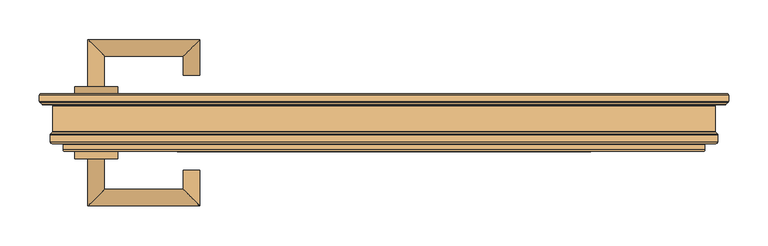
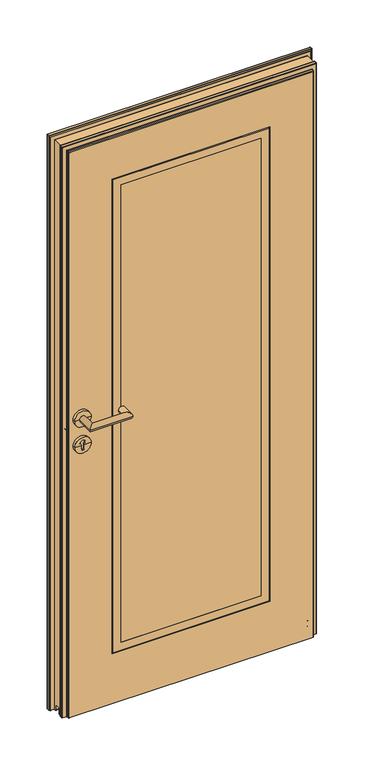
"""IFC4 building model written with IfcOpenShell, lengths in millimetres: door geometry, Peneder_HIGHLINEflat zero_1-flügelig_V2019 : Zargentyp - 05 - U DN."""

from ifc_helpers import new_model, si_unit, frame, origin, place, context, project, spatial, polyline, circle_curve, ellipse_curve, outline, extrude, faceted_brep, source, transform, mapped, element, save
from ifc_brep_helpers import plane_surface, cylinder_surface, revolved_surface, advanced_brep


def door_f72b39be(model_context):
    return source(origin(), model_context, "Body", "SolidModel", [
        advanced_brep(
        [(-375.5, 56.0, 1050.0), (-354.5, 56.0, 1050.0), (-375.5, -4.0, 1050.0), (-354.5, 17.0, 1050.0), (-233.5, -4.0, 1050.0), (-254.5, 17.0, 1050.0), (-233.5, 41.0, 1050.0), (-254.5, 41.0, 1050.0)],
        [
            (0, 1, circle_curve(frame((-365.0, 56.0, 1050.0), z_axis=(0.0, 1.0, 0.0), x_axis=(1.0, 0.0, 0.0)), 10.5)),
            (1, 0, circle_curve(frame((-365.0, 56.0, 1050.0), z_axis=(0.0, 1.0, 0.0), x_axis=(1.0, 0.0, 0.0)), 10.5)),
            (0, 2),
            (2, 3, ellipse_curve(frame((-365.0, 6.5, 1050.0), z_axis=(-0.7071067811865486, 0.7071067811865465, 0.0), x_axis=(0.7071067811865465, 0.7071067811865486, 0.0)), 14.8492424, 10.5)),
            (3, 1),
            (3, 2, ellipse_curve(frame((-365.0, 6.5, 1050.0), z_axis=(-0.7071067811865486, 0.7071067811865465, 0.0), x_axis=(0.7071067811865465, 0.7071067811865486, 0.0)), 14.8492424, 10.5)),
            (2, 4),
            (4, 5, ellipse_curve(frame((-244.0, 6.5, 1050.0), z_axis=(-0.7071067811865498, -0.7071067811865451, 0.0), x_axis=(-0.7071067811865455, 0.7071067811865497, 0.0)), 14.8492424, 10.5)),
            (5, 3),
            (5, 4, ellipse_curve(frame((-244.0, 6.5, 1050.0), z_axis=(-0.7071067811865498, -0.7071067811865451, 0.0), x_axis=(-0.7071067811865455, 0.7071067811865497, 0.0)), 14.8492424, 10.5)),
            (6, 7, circle_curve(frame((-244.0, 41.0, 1050.0), z_axis=(0.0, 1.0, 0.0), x_axis=(-1.0, 0.0, 0.0)), 10.5)),
            (7, 6, circle_curve(frame((-244.0, 41.0, 1050.0), z_axis=(0.0, 1.0, 0.0), x_axis=(-1.0, 0.0, 0.0)), 10.5)),
            (4, 6),
            (7, 5),
        ],
        [
            plane_surface(frame((-365.0, 56.0, 1050.0), z_axis=(0.0, 1.0, 0.0), x_axis=(0.0, 0.0, 1.0))),
            cylinder_surface(frame((-365.0, 56.0, 1050.0), z_axis=(0.0, 1.0, 0.0), x_axis=(1.0, 0.0, 0.0)), 10.5),
            cylinder_surface(frame((-365.0, 6.5, 1050.0), z_axis=(-1.0, 0.0, 0.0), x_axis=(0.0, 1.0, 0.0)), 10.5),
            plane_surface(frame((-244.0, 41.0, 1050.0), z_axis=(0.0, 1.0, 0.0), x_axis=(0.0, 0.0, 1.0))),
            cylinder_surface(frame((-244.0, 6.5, 1050.0), z_axis=(0.0, -1.0, 0.0), x_axis=(-1.0, 0.0, 0.0)), 10.5),
        ],
        [
            (0, [[1, 2]]),
            (1, [[-1, 3, 4, 5]]),
            (1, [[-2, -5, 6, -3]]),
            (2, [[-4, 7, 8, 9]]),
            (2, [[-6, -9, 10, -7]]),
            (3, [[11, 12]]),
            (4, [[-8, 13, -12, 14]]),
            (4, [[-10, -14, -11, -13]]),
        ],
    ),
        advanced_brep(
        [(-337.5, 56.0, 1050.0), (-392.5, 56.0, 1050.0), (-392.5, 65.0, 1050.0), (-337.5, 65.0, 1050.0), (-365.0, 56.0, 1050.0), (-365.0, 65.0, 1050.0)],
        [
            (0, 1, circle_curve(frame((-365.0, 56.0, 1050.0), z_axis=(0.0, 1.0, 0.0), x_axis=(-1.0, 0.0, 0.0)), 27.5)),
            (1, 2),
            (2, 3, circle_curve(frame((-365.0, 65.0, 1050.0), z_axis=(0.0, -1.0, 0.0), x_axis=(-1.0, 0.0, 0.0)), 27.5)),
            (3, 0),
            (1, 0, circle_curve(frame((-365.0, 56.0, 1050.0), z_axis=(0.0, 1.0, 0.0), x_axis=(-1.0, 0.0, 0.0)), 27.5)),
            (3, 2, circle_curve(frame((-365.0, 65.0, 1050.0), z_axis=(0.0, -1.0, 0.0), x_axis=(-1.0, 0.0, 0.0)), 27.5)),
            (4, 1),
            (0, 4),
            (2, 5),
            (5, 3),
        ],
        [
            cylinder_surface(frame((-365.0, 82.7607135, 1050.0), z_axis=(0.0, -1.0, 0.0), x_axis=(-1.0, 0.0, 0.0)), 27.5),
            plane_surface(frame((-365.0, 56.0, 1050.0), z_axis=(0.0, -1.0, 0.0), x_axis=(-1.0, 0.0, 0.0))),
            plane_surface(frame((-365.0, 65.0, 1050.0), z_axis=(0.0, 1.0, 0.0), x_axis=(-1.0, 0.0, 0.0))),
        ],
        [
            (0, [[1, 2, 3, 4]]),
            (0, [[5, -4, 6, -2]]),
            (1, [[7, -1, 8]]),
            (1, [[-8, -5, -7]]),
            (2, [[-3, 9, 10]]),
            (2, [[-6, -10, -9]]),
        ],
    ),
        advanced_brep(
        [(-337.5, 56.0, 958.0), (-392.5, 56.0, 958.0), (-392.5, 65.0, 958.0), (-337.5, 65.0, 958.0), (-360.0, 56.0, 958.0), (-360.0, 56.0, 945.8645067), (-370.0, 56.0, 945.8645067), (-370.0, 56.0, 958.0), (-370.0, 56.0, 960.8645067), (-360.0, 56.0, 960.8645067), (-365.0, 65.0, 958.0), (-370.0, 62.0, 945.8645067), (-360.0, 62.0, 945.8645067), (-360.0, 62.0, 960.8645067), (-370.0, 62.0, 960.8645067)],
        [
            (0, 1, circle_curve(frame((-365.0, 56.0, 958.0), z_axis=(0.0, 1.0, 0.0), x_axis=(-1.0, 0.0, 0.0)), 27.5)),
            (1, 2),
            (2, 3, circle_curve(frame((-365.0, 65.0, 958.0), z_axis=(0.0, -1.0, 0.0), x_axis=(-1.0, 0.0, 0.0)), 27.5)),
            (3, 0),
            (1, 0, circle_curve(frame((-365.0, 56.0, 958.0), z_axis=(0.0, 1.0, 0.0), x_axis=(-1.0, 0.0, 0.0)), 27.5)),
            (3, 2, circle_curve(frame((-365.0, 65.0, 958.0), z_axis=(0.0, -1.0, 0.0), x_axis=(-1.0, 0.0, 0.0)), 27.5)),
            (0, 4),
            (4, 5),
            (5, 6, circle_curve(frame((-365.0, 56.0, 945.8645067), z_axis=(0.0, 1.0, 0.0), x_axis=(-1.0, 0.0, 0.0)), 5.0)),
            (6, 7),
            (7, 1),
            (7, 8),
            (8, 9, circle_curve(frame((-365.0, 56.0, 967.690169), z_axis=(0.0, 1.0, 0.0), x_axis=(-1.0, 0.0, 0.0)), 8.4610677)),
            (9, 4),
            (2, 10),
            (10, 3),
            (11, 12, circle_curve(frame((-365.0, 62.0, 945.8645067), z_axis=(0.0, -1.0, 0.0), x_axis=(-1.0, 0.0, 0.0)), 5.0)),
            (12, 13),
            (13, 14, circle_curve(frame((-365.0, 62.0, 967.690169), z_axis=(0.0, -1.0, 0.0), x_axis=(-1.0, 0.0, 0.0)), 8.4610677)),
            (14, 11),
            (11, 6),
            (5, 12),
            (9, 13),
            (8, 14),
        ],
        [
            cylinder_surface(frame((-365.0, 72.1832023, 958.0), z_axis=(0.0, -1.0, 0.0), x_axis=(-1.0, 0.0, 0.0)), 27.5),
            plane_surface(frame((-365.0, 56.0, 958.0), z_axis=(0.0, -1.0, 0.0), x_axis=(-1.0, 0.0, 0.0))),
            plane_surface(frame((-365.0, 65.0, 958.0), z_axis=(0.0, 1.0, 0.0), x_axis=(-1.0, 0.0, 0.0))),
            plane_surface(frame((-370.0, 62.0, 960.8645067), z_axis=(0.0, -1.0, 0.0), x_axis=(0.0, 0.0, 1.0))),
            revolved_surface(polyline([(-370.0, 62.0, 945.8645067), (-370.0, 56.0, 945.8645067)]), (-365.0, 52.0, 945.8645067), (0.0, 1.0, 0.0)),
            plane_surface(frame((-360.0, 62.0, 960.8645067), z_axis=(-1.0, 0.0, 0.0), x_axis=(0.0, -1.0, 0.0))),
            revolved_surface(polyline([(-373.4610677, 62.0, 967.690169), (-373.4610677, 56.0, 967.690169)]), (-365.0, 52.0, 967.690169), (0.0, 1.0, 0.0)),
            plane_surface(frame((-370.0, 62.0, 945.8645067), z_axis=(1.0, 0.0, 0.0), x_axis=(0.0, -1.0, 0.0))),
        ],
        [
            (0, [[1, 2, 3, 4]]),
            (0, [[-2, 5, -4, 6]]),
            (1, [[-1, 7, 8, 9, 10, 11]]),
            (1, [[-5, -11, 12, 13, 14, -7]]),
            (2, [[-3, 15, 16]]),
            (2, [[-6, -16, -15]]),
            (3, [[17, 18, 19, 20]]),
            (4, [[-17, 21, -9, 22]]),
            (5, [[-18, -22, -8, -14, 23]]),
            (6, [[-19, -23, -13, 24]]),
            (7, [[-20, -24, -12, -10, -21]]),
        ],
    ),
        advanced_brep(
        [(-375.5, 147.0, 1050.0), (-354.5, 147.0, 1050.0), (-354.5, 186.0, 1050.0), (-375.5, 207.0, 1050.0), (-254.5, 186.0, 1050.0), (-233.5, 207.0, 1050.0), (-233.5, 162.0, 1050.0), (-254.5, 162.0, 1050.0)],
        [
            (0, 1, circle_curve(frame((-365.0, 147.0, 1050.0), z_axis=(0.0, -1.0, 0.0), x_axis=(1.0, 0.0, 0.0)), 10.5)),
            (1, 0, circle_curve(frame((-365.0, 147.0, 1050.0), z_axis=(0.0, -1.0, 0.0), x_axis=(1.0, 0.0, 0.0)), 10.5)),
            (1, 2),
            (2, 3, ellipse_curve(frame((-365.0, 196.5, 1050.0), z_axis=(-0.7071067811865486, -0.7071067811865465, 0.0), x_axis=(0.7071067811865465, -0.7071067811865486, 0.0)), 14.8492424, 10.5)),
            (3, 0),
            (3, 2, ellipse_curve(frame((-365.0, 196.5, 1050.0), z_axis=(-0.7071067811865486, -0.7071067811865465, 0.0), x_axis=(0.7071067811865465, -0.7071067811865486, 0.0)), 14.8492424, 10.5)),
            (2, 4),
            (4, 5, ellipse_curve(frame((-244.0, 196.5, 1050.0), z_axis=(-0.7071067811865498, 0.7071067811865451, 0.0), x_axis=(-0.7071067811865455, -0.7071067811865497, 0.0)), 14.8492424, 10.5)),
            (5, 3),
            (5, 4, ellipse_curve(frame((-244.0, 196.5, 1050.0), z_axis=(-0.7071067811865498, 0.7071067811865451, 0.0), x_axis=(-0.7071067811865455, -0.7071067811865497, 0.0)), 14.8492424, 10.5)),
            (6, 7, circle_curve(frame((-244.0, 162.0, 1050.0), z_axis=(0.0, -1.0, 0.0), x_axis=(-1.0, 0.0, 0.0)), 10.5)),
            (7, 6, circle_curve(frame((-244.0, 162.0, 1050.0), z_axis=(0.0, -1.0, 0.0), x_axis=(-1.0, 0.0, 0.0)), 10.5)),
            (4, 7),
            (6, 5),
        ],
        [
            plane_surface(frame((-365.0, 147.0, 1050.0), z_axis=(0.0, -1.0, 0.0), x_axis=(0.0, 0.0, 1.0))),
            cylinder_surface(frame((-365.0, 147.0, 1050.0), z_axis=(0.0, -1.0, 0.0), x_axis=(1.0, 0.0, 0.0)), 10.5),
            cylinder_surface(frame((-365.0, 196.5, 1050.0), z_axis=(-1.0, 0.0, 0.0), x_axis=(0.0, -1.0, 0.0)), 10.5),
            plane_surface(frame((-244.0, 162.0, 1050.0), z_axis=(0.0, -1.0, 0.0), x_axis=(0.0, 0.0, 1.0))),
            cylinder_surface(frame((-244.0, 196.5, 1050.0), z_axis=(0.0, 1.0, 0.0), x_axis=(-1.0, 0.0, 0.0)), 10.5),
        ],
        [
            (0, [[1, 2]]),
            (1, [[3, 4, 5, -2]]),
            (1, [[-5, 6, -3, -1]]),
            (2, [[7, 8, 9, -4]]),
            (2, [[-9, 10, -7, -6]]),
            (3, [[11, 12]]),
            (4, [[13, -11, 14, -8]]),
            (4, [[-14, -12, -13, -10]]),
        ],
    ),
        advanced_brep(
        [(-337.5, 147.0, 1050.0), (-337.5, 138.0, 1050.0), (-392.5, 138.0, 1050.0), (-392.5, 147.0, 1050.0), (-365.0, 147.0, 1050.0), (-365.0, 138.0, 1050.0)],
        [
            (0, 1),
            (1, 2, circle_curve(frame((-365.0, 138.0, 1050.0), z_axis=(0.0, 1.0, 0.0), x_axis=(-1.0, 0.0, 0.0)), 27.5)),
            (2, 3),
            (3, 0, circle_curve(frame((-365.0, 147.0, 1050.0), z_axis=(0.0, -1.0, 0.0), x_axis=(-1.0, 0.0, 0.0)), 27.5)),
            (2, 1, circle_curve(frame((-365.0, 138.0, 1050.0), z_axis=(0.0, 1.0, 0.0), x_axis=(-1.0, 0.0, 0.0)), 27.5)),
            (0, 3, circle_curve(frame((-365.0, 147.0, 1050.0), z_axis=(0.0, -1.0, 0.0), x_axis=(-1.0, 0.0, 0.0)), 27.5)),
            (4, 0),
            (3, 4),
            (1, 5),
            (5, 2),
        ],
        [
            cylinder_surface(frame((-365.0, 120.2392865, 1050.0), z_axis=(0.0, 1.0, 0.0), x_axis=(-1.0, 0.0, 0.0)), 27.5),
            plane_surface(frame((-365.0, 147.0, 1050.0), z_axis=(0.0, 1.0, 0.0), x_axis=(-1.0, 0.0, 0.0))),
            plane_surface(frame((-365.0, 138.0, 1050.0), z_axis=(0.0, -1.0, 0.0), x_axis=(-1.0, 0.0, 0.0))),
        ],
        [
            (0, [[1, 2, 3, 4]]),
            (0, [[-3, 5, -1, 6]]),
            (1, [[7, -4, 8]]),
            (1, [[-8, -6, -7]]),
            (2, [[9, 10, -2]]),
            (2, [[-10, -9, -5]]),
        ],
    ),
        advanced_brep(
        [(-337.5, 147.0, 958.0), (-337.5, 138.0, 958.0), (-392.5, 138.0, 958.0), (-392.5, 147.0, 958.0), (-370.0, 147.0, 958.0), (-370.0, 147.0, 945.8645067), (-360.0, 147.0, 945.8645067), (-360.0, 147.0, 958.0), (-360.0, 147.0, 960.8645067), (-370.0, 147.0, 960.8645067), (-365.0, 138.0, 958.0), (-370.0, 141.0, 945.8645067), (-370.0, 141.0, 960.8645067), (-360.0, 141.0, 960.8645067), (-360.0, 141.0, 945.8645067)],
        [
            (0, 1),
            (1, 2, circle_curve(frame((-365.0, 138.0, 958.0), z_axis=(0.0, 1.0, 0.0), x_axis=(-1.0, 0.0, 0.0)), 27.5)),
            (2, 3),
            (3, 0, circle_curve(frame((-365.0, 147.0, 958.0), z_axis=(0.0, -1.0, 0.0), x_axis=(-1.0, 0.0, 0.0)), 27.5)),
            (2, 1, circle_curve(frame((-365.0, 138.0, 958.0), z_axis=(0.0, 1.0, 0.0), x_axis=(-1.0, 0.0, 0.0)), 27.5)),
            (0, 3, circle_curve(frame((-365.0, 147.0, 958.0), z_axis=(0.0, -1.0, 0.0), x_axis=(-1.0, 0.0, 0.0)), 27.5)),
            (3, 4),
            (4, 5),
            (5, 6, circle_curve(frame((-365.0, 147.0, 945.8645067), z_axis=(0.0, -1.0, 0.0), x_axis=(-1.0, 0.0, 0.0)), 5.0)),
            (6, 7),
            (7, 0),
            (7, 8),
            (8, 9, circle_curve(frame((-365.0, 147.0, 967.690169), z_axis=(0.0, -1.0, 0.0), x_axis=(-1.0, 0.0, 0.0)), 8.4610677)),
            (9, 4),
            (1, 10),
            (10, 2),
            (11, 12),
            (12, 13, circle_curve(frame((-365.0, 141.0, 967.690169), z_axis=(0.0, 1.0, 0.0), x_axis=(-1.0, 0.0, 0.0)), 8.4610677)),
            (13, 14),
            (14, 11, circle_curve(frame((-365.0, 141.0, 945.8645067), z_axis=(0.0, 1.0, 0.0), x_axis=(-1.0, 0.0, 0.0)), 5.0)),
            (14, 6),
            (5, 11),
            (13, 8),
            (12, 9),
        ],
        [
            cylinder_surface(frame((-365.0, 130.8167977, 958.0), z_axis=(0.0, 1.0, 0.0), x_axis=(-1.0, 0.0, 0.0)), 27.5),
            plane_surface(frame((-365.0, 147.0, 958.0), z_axis=(0.0, 1.0, 0.0), x_axis=(-1.0, 0.0, 0.0))),
            plane_surface(frame((-365.0, 138.0, 958.0), z_axis=(0.0, -1.0, 0.0), x_axis=(-1.0, 0.0, 0.0))),
            plane_surface(frame((-370.0, 141.0, 960.8645067), z_axis=(0.0, 1.0, 0.0), x_axis=(0.0, 0.0, 1.0))),
            revolved_surface(polyline([(-370.0, 141.0, 945.8645067), (-370.0, 147.0, 945.8645067)]), (-365.0, 151.0, 945.8645067), (0.0, -1.0, 0.0)),
            plane_surface(frame((-360.0, 141.0, 960.8645067), z_axis=(-1.0, 0.0, 0.0), x_axis=(0.0, 1.0, 0.0))),
            revolved_surface(polyline([(-373.4610677, 141.0, 967.690169), (-373.4610677, 147.0, 967.690169)]), (-365.0, 151.0, 967.690169), (0.0, -1.0, 0.0)),
            plane_surface(frame((-370.0, 141.0, 945.8645067), z_axis=(1.0, 0.0, 0.0), x_axis=(0.0, 1.0, 0.0))),
        ],
        [
            (0, [[1, 2, 3, 4]]),
            (0, [[5, -1, 6, -3]]),
            (1, [[7, 8, 9, 10, 11, -4]]),
            (1, [[-11, 12, 13, 14, -7, -6]]),
            (2, [[15, 16, -2]]),
            (2, [[-16, -15, -5]]),
            (3, [[17, 18, 19, 20]]),
            (4, [[21, -9, 22, -20]]),
            (5, [[23, -12, -10, -21, -19]]),
            (6, [[24, -13, -23, -18]]),
            (7, [[-22, -8, -14, -24, -17]]),
        ],
    ),
        faceted_brep([(232.0, 65.0, 215.0), (232.0, 138.0, 215.0), (-232.0, 138.0, 215.0), (-232.0, 65.0, 215.0), (-232.0, 138.0, 1819.0), (-232.0, 65.0, 1819.0), (-259.0, 138.0, 1846.0), (259.0, 138.0, 1846.0), (259.0, 138.0, 188.0), (-259.0, 138.0, 188.0), (232.0, 138.0, 1819.0), (-259.0, 65.0, 188.0), (259.0, 65.0, 188.0), (259.0, 65.0, 1846.0), (-259.0, 65.0, 1846.0), (232.0, 65.0, 1819.0), (259.0, 68.0, 188.0), (-259.0, 68.0, 188.0), (-259.0, 68.0, 1846.0), (-262.0, 68.0, 185.0), (262.0, 68.0, 185.0), (262.0, 68.0, 1849.0), (-262.0, 68.0, 1849.0), (259.0, 68.0, 1846.0), (262.0, 135.0, 185.0), (-262.0, 135.0, 185.0), (-262.0, 135.0, 1849.0), (262.0, 135.0, 1849.0), (-259.0, 135.0, 188.0), (259.0, 135.0, 188.0), (259.0, 135.0, 1846.0), (-259.0, 135.0, 1846.0)], [[[0, 1, 2, 3]], [[3, 2, 4, 5]], [[6, 7, 8, 9], [2, 1, 10, 4]], [[11, 12, 13, 14], [5, 15, 0, 3]], [[16, 12, 11, 17]], [[17, 11, 14, 18]], [[19, 20, 21, 22], [18, 23, 16, 17]], [[24, 20, 19, 25]], [[25, 19, 22, 26]], [[26, 27, 24, 25], [28, 29, 30, 31]], [[8, 29, 28, 9]], [[9, 28, 31, 6]], [[15, 10, 1, 0]], [[23, 13, 12, 16]], [[27, 21, 20, 24]], [[7, 30, 29, 8]], [[5, 4, 10, 15]], [[18, 14, 13, 23]], [[26, 22, 21, 27]], [[6, 31, 30, 7]]]),
        extrude(outline(polyline([(232.0, 65.0), (-232.0, 65.0), (-232.0, 138.0), (232.0, 138.0), (232.0, 65.0)])), frame((0.0, 0.0, 215.0), z_axis=(0.0, 0.0, 1.0), x_axis=(1.0, 0.0, 0.0)), (0.0, 0.0, 1.0), 1604.0),
        advanced_brep(
        [(405.0, 65.0, 10.0), (-405.0, 65.0, 10.0), (-407.0, 67.0, 10.0), (-407.0, 74.0, 10.0), (-408.0, 75.0, 10.0), (-421.0, 75.0, 10.0), (-423.0, 77.0, 10.0), (-423.0, 86.1715729, 10.0), (-422.4142136, 87.5857864, 10.0), (-420.2928932, 89.7071068, 10.0), (-420.0, 90.4142136, 10.0), (-420.0, 94.5, 10.0), (420.0, 94.5, 10.0), (420.0, 90.4142136, 10.0), (420.2928932, 89.7071068, 10.0), (422.4142136, 87.5857864, 10.0), (423.0, 86.1715729, 10.0), (423.0, 77.0, 10.0), (421.0, 75.0, 10.0), (408.0, 75.0, 10.0), (407.0, 74.0, 10.0), (407.0, 67.0, 10.0), (-437.0, 128.8284271, 10.0), (-437.0, 136.0, 10.0), (-435.0, 138.0, 10.0), (435.0, 138.0, 10.0), (437.0, 136.0, 10.0), (437.0, 128.8284271, 10.0), (436.4142136, 127.4142136, 10.0), (433.5857864, 124.5857864, 10.0), (432.1715729, 124.0, 10.0), (421.0, 124.0, 10.0), (420.0, 123.0, 10.0), (420.0, 119.5, 10.0), (-420.0, 119.5, 10.0), (-420.0, 123.0, 10.0), (-421.0, 124.0, 10.0), (-432.1715729, 124.0, 10.0), (-433.5857864, 124.5857864, 10.0), (-436.4142136, 127.4142136, 10.0), (405.0, 65.0, 1992.0), (-405.0, 65.0, 1992.0), (-262.0, 65.0, 1849.0), (262.0, 65.0, 1849.0), (262.0, 65.0, 185.0), (-262.0, 65.0, 185.0), (-407.0, 67.0, 1994.0), (-407.0, 74.0, 1994.0), (-408.0, 75.0, 1995.0), (408.0, 75.0, 1995.0), (421.0, 75.0, 2008.0), (-421.0, 75.0, 2008.0), (-423.0, 77.0, 2010.0), (-423.0, 86.1715729, 2010.0), (-422.4142136, 87.5857864, 2009.4142136), (-420.2928932, 89.7071068, 2007.2928932), (-420.0, 90.4142136, 2007.0), (-420.0, 123.0, 2007.0), (-420.0, 117.5, 12.0), (-420.0, 117.5, 29.5), (-420.0, 116.5, 30.5), (-420.0, 97.5, 30.5), (-420.0, 96.5, 29.5), (-420.0, 96.5, 12.0), (420.0, 96.5, 12.0), (420.0, 123.0, 2007.0), (420.0, 90.4142136, 2007.0), (420.0, 96.5, 29.5), (420.0, 97.5, 30.5), (420.0, 116.5, 30.5), (420.0, 117.5, 29.5), (420.0, 117.5, 12.0), (420.2928932, 89.7071068, 2007.2928932), (422.4142136, 87.5857864, 2009.4142136), (423.0, 86.1715729, 2010.0), (423.0, 77.0, 2010.0), (407.0, 74.0, 1994.0), (407.0, 67.0, 1994.0), (-437.0, 128.8284271, 2024.0), (-437.0, 136.0, 2024.0), (-435.0, 138.0, 2022.0), (435.0, 138.0, 2022.0), (262.0, 138.0, 1849.0), (-262.0, 138.0, 1849.0), (-262.0, 138.0, 185.0), (262.0, 138.0, 185.0), (437.0, 136.0, 2024.0), (437.0, 128.8284271, 2024.0), (436.4142136, 127.4142136, 2023.4142136), (433.5857864, 124.5857864, 2020.5857864), (432.1715729, 124.0, 2019.1715729), (-421.0, 124.0, 2008.0), (421.0, 124.0, 2008.0), (-432.1715729, 124.0, 2019.1715729), (-433.5857864, 124.5857864, 2020.5857864), (-436.4142136, 127.4142136, 2023.4142136)],
        [
            (0, 1),
            (1, 2, circle_curve(frame((-405.0, 67.0, 10.0), z_axis=(0.0, 0.0, -1.0), x_axis=(0.0, -1.0, 0.0)), 2.0)),
            (2, 3),
            (3, 4, circle_curve(frame((-408.0, 74.0, 10.0), z_axis=(0.0, 0.0, 1.0), x_axis=(1.0, 0.0, 0.0)), 1.0)),
            (4, 5),
            (5, 6, circle_curve(frame((-421.0, 77.0, 10.0), z_axis=(0.0, 0.0, -1.0), x_axis=(0.0, -1.0, 0.0)), 2.0)),
            (6, 7),
            (7, 8, circle_curve(frame((-421.0, 86.1715729, 10.0), z_axis=(0.0, 0.0, -1.0), x_axis=(-1.0, 0.0, 0.0)), 2.0)),
            (8, 9),
            (9, 10, circle_curve(frame((-421.0, 90.4142136, 10.0), z_axis=(0.0, 0.0, 1.0), x_axis=(0.7071067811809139, -0.7071067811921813, 0.0)), 1.0)),
            (10, 11),
            (11, 12),
            (12, 13),
            (13, 14, circle_curve(frame((421.0, 90.4142136, 10.0), z_axis=(0.0, 0.0, 1.0), x_axis=(-0.707106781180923, -0.7071067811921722, 0.0)), 1.0)),
            (14, 15),
            (15, 16, circle_curve(frame((421.0, 86.1715729, 10.0), z_axis=(0.0, 0.0, -1.0), x_axis=(1.0, 0.0, 0.0)), 2.0)),
            (16, 17),
            (17, 18, circle_curve(frame((421.0, 77.0, 10.0), z_axis=(0.0, 0.0, -1.0), x_axis=(0.0, -1.0, 0.0)), 2.0)),
            (18, 19),
            (19, 20, circle_curve(frame((408.0, 74.0, 10.0), z_axis=(0.0, 0.0, 1.0), x_axis=(-1.0, 0.0, 0.0)), 1.0)),
            (20, 21),
            (21, 0, circle_curve(frame((405.0, 67.0, 10.0), z_axis=(0.0, 0.0, -1.0), x_axis=(0.0, -1.0, 0.0)), 2.0)),
            (22, 23),
            (23, 24, circle_curve(frame((-435.0, 136.0, 10.0), z_axis=(0.0, 0.0, -1.0), x_axis=(-1.0, 0.0, 0.0)), 2.0)),
            (24, 25),
            (25, 26, circle_curve(frame((435.0, 136.0, 10.0), z_axis=(0.0, 0.0, -1.0), x_axis=(1.0, 0.0, 0.0)), 2.0)),
            (26, 27),
            (27, 28, circle_curve(frame((435.0, 128.8284271, 10.0), z_axis=(0.0, 0.0, -1.0), x_axis=(0.7071067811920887, -0.7071067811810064, 0.0)), 2.0)),
            (28, 29),
            (29, 30, circle_curve(frame((432.1715729, 126.0, 10.0), z_axis=(0.0, 0.0, -1.0), x_axis=(0.0, -1.0, 0.0)), 2.0)),
            (30, 31),
            (31, 32, circle_curve(frame((421.0, 123.0, 10.0), z_axis=(0.0, 0.0, 1.0), x_axis=(-1.0, 0.0, 0.0)), 1.0)),
            (32, 33),
            (33, 34),
            (34, 35),
            (35, 36, circle_curve(frame((-421.0, 123.0, 10.0), z_axis=(0.0, 0.0, 1.0), x_axis=(1.0, 0.0, 0.0)), 1.0)),
            (36, 37),
            (37, 38, circle_curve(frame((-432.1715729, 126.0, 10.0), z_axis=(0.0, 0.0, -1.0), x_axis=(0.0, -1.0, 0.0)), 2.0)),
            (38, 39),
            (39, 22, circle_curve(frame((-435.0, 128.8284271, 10.0), z_axis=(0.0, 0.0, -1.0), x_axis=(-0.7071067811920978, -0.7071067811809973, 0.0)), 2.0)),
            (0, 40),
            (40, 41),
            (41, 1),
            (42, 43),
            (43, 44),
            (44, 45),
            (45, 42),
            (41, 46, ellipse_curve(frame((-405.0, 67.0, 1992.0), z_axis=(-0.7071067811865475, 0.0, -0.7071067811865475), x_axis=(-0.7071067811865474, 0.0, 0.7071067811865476)), 2.8284271, 2.0)),
            (46, 2),
            (46, 47),
            (47, 3),
            (47, 48, ellipse_curve(frame((-408.0, 74.0, 1995.0), z_axis=(0.7071067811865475, 0.0, 0.7071067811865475), x_axis=(0.7071067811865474, 0.0, -0.7071067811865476)), 1.4142136, 1.0)),
            (48, 4),
            (48, 49),
            (49, 19),
            (18, 50),
            (50, 51),
            (51, 5),
            (51, 52, ellipse_curve(frame((-421.0, 77.0, 2008.0), z_axis=(-0.7071067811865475, 0.0, -0.7071067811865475), x_axis=(-0.7071067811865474, 0.0, 0.7071067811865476)), 2.8284271, 2.0)),
            (52, 6),
            (52, 53),
            (53, 7),
            (53, 54, ellipse_curve(frame((-421.0, 86.1715729, 2008.0), z_axis=(-0.7071067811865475, 0.0, -0.7071067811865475), x_axis=(-0.7071067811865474, 0.0, 0.7071067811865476)), 2.8284271, 2.0)),
            (54, 8),
            (54, 55),
            (55, 9),
            (55, 56, ellipse_curve(frame((-421.0, 90.4142136, 2008.0), z_axis=(0.7071067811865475, 0.0, 0.7071067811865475), x_axis=(0.7071067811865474, 0.0, -0.7071067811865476)), 1.4142136, 1.0)),
            (56, 10),
            (56, 57),
            (57, 35),
            (34, 58, circle_curve(frame((-420.0, 119.5, 12.0), z_axis=(-1.0, 0.0, 0.0), x_axis=(0.0, 1.0, 0.0)), 2.0)),
            (58, 59),
            (59, 60, circle_curve(frame((-420.0, 116.5, 29.5), z_axis=(1.0, 0.0, 0.0), x_axis=(0.0, 1.0, 0.0)), 1.0)),
            (60, 61),
            (61, 62, circle_curve(frame((-420.0, 97.5, 29.5), z_axis=(1.0, 0.0, 0.0), x_axis=(0.0, 1.0, 0.0)), 1.0)),
            (62, 63),
            (63, 11, circle_curve(frame((-420.0, 94.5, 12.0), z_axis=(-1.0, 0.0, 0.0), x_axis=(0.0, 1.0, 0.0)), 2.0)),
            (63, 64),
            (64, 12, circle_curve(frame((420.0, 94.5, 12.0), z_axis=(-1.0, 0.0, 0.0), x_axis=(0.0, 1.0, 0.0)), 2.0)),
            (65, 66),
            (66, 13),
            (64, 67),
            (67, 68, circle_curve(frame((420.0, 97.5, 29.5), z_axis=(-1.0, 0.0, 0.0), x_axis=(0.0, 1.0, 0.0)), 1.0)),
            (68, 69),
            (69, 70, circle_curve(frame((420.0, 116.5, 29.5), z_axis=(-1.0, 0.0, 0.0), x_axis=(0.0, 1.0, 0.0)), 1.0)),
            (70, 71),
            (71, 33, circle_curve(frame((420.0, 119.5, 12.0), z_axis=(1.0, 0.0, 0.0), x_axis=(0.0, 1.0, 0.0)), 2.0)),
            (32, 65),
            (66, 72, ellipse_curve(frame((421.0, 90.4142136, 2008.0), z_axis=(-0.7071067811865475, 0.0, 0.7071067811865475), x_axis=(0.7071067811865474, 0.0, 0.7071067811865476)), 1.4142136, 1.0)),
            (72, 14),
            (72, 73),
            (73, 15),
            (73, 74, ellipse_curve(frame((421.0, 86.1715729, 2008.0), z_axis=(0.7071067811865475, 0.0, -0.7071067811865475), x_axis=(-0.7071067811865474, 0.0, -0.7071067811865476)), 2.8284271, 2.0)),
            (74, 16),
            (74, 75),
            (75, 17),
            (75, 50, ellipse_curve(frame((421.0, 77.0, 2008.0), z_axis=(0.7071067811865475, 0.0, -0.7071067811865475), x_axis=(-0.7071067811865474, 0.0, -0.7071067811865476)), 2.8284271, 2.0)),
            (49, 76, ellipse_curve(frame((408.0, 74.0, 1995.0), z_axis=(-0.7071067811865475, 0.0, 0.7071067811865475), x_axis=(0.7071067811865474, 0.0, 0.7071067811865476)), 1.4142136, 1.0)),
            (76, 20),
            (76, 77),
            (77, 21),
            (77, 40, ellipse_curve(frame((405.0, 67.0, 1992.0), z_axis=(0.7071067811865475, 0.0, -0.7071067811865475), x_axis=(-0.7071067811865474, 0.0, -0.7071067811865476)), 2.8284271, 2.0)),
            (78, 79),
            (79, 23),
            (22, 78),
            (79, 80, ellipse_curve(frame((-435.0, 136.0, 2022.0), z_axis=(-0.7071067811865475, 0.0, -0.7071067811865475), x_axis=(-0.7071067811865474, 0.0, 0.7071067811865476)), 2.8284271, 2.0)),
            (80, 24),
            (80, 81),
            (81, 25),
            (82, 83),
            (83, 84),
            (84, 85),
            (85, 82),
            (81, 86, ellipse_curve(frame((435.0, 136.0, 2022.0), z_axis=(0.7071067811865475, 0.0, -0.7071067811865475), x_axis=(-0.7071067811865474, 0.0, -0.7071067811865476)), 2.8284271, 2.0)),
            (86, 26),
            (86, 87),
            (87, 27),
            (87, 88, ellipse_curve(frame((435.0, 128.8284271, 2022.0), z_axis=(0.7071067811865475, 0.0, -0.7071067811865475), x_axis=(-0.7071067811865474, 0.0, -0.7071067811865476)), 2.8284271, 2.0)),
            (88, 28),
            (88, 89),
            (89, 29),
            (89, 90, ellipse_curve(frame((432.1715729, 126.0, 2019.1715729), z_axis=(0.7071067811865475, 0.0, -0.7071067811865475), x_axis=(-0.7071067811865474, 0.0, -0.7071067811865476)), 2.8284271, 2.0)),
            (90, 30),
            (91, 92),
            (92, 31),
            (90, 93),
            (93, 37),
            (36, 91),
            (92, 65, ellipse_curve(frame((421.0, 123.0, 2008.0), z_axis=(-0.7071067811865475, 0.0, 0.7071067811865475), x_axis=(0.7071067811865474, 0.0, 0.7071067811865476)), 1.4142136, 1.0)),
            (71, 58),
            (57, 91, ellipse_curve(frame((-421.0, 123.0, 2008.0), z_axis=(0.7071067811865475, 0.0, 0.7071067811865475), x_axis=(0.7071067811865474, 0.0, -0.7071067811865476)), 1.4142136, 1.0)),
            (93, 94, ellipse_curve(frame((-432.1715729, 126.0, 2019.1715729), z_axis=(-0.7071067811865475, 0.0, -0.7071067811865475), x_axis=(-0.7071067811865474, 0.0, 0.7071067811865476)), 2.8284271, 2.0)),
            (94, 38),
            (94, 95),
            (95, 39),
            (95, 78, ellipse_curve(frame((-435.0, 128.8284271, 2022.0), z_axis=(-0.7071067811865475, 0.0, -0.7071067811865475), x_axis=(-0.7071067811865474, 0.0, 0.7071067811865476)), 2.8284271, 2.0)),
            (70, 59),
            (69, 60),
            (68, 61),
            (67, 62),
            (86, 79),
            (78, 87),
            (77, 46),
            (95, 88),
            (94, 89),
            (57, 65),
            (56, 66),
            (55, 72),
            (54, 73),
            (53, 74),
            (52, 75),
            (47, 76),
            (43, 82),
            (85, 44),
            (84, 45),
            (83, 42),
        ],
        [
            plane_surface(frame((437.0, 65.0, 10.0), z_axis=(0.0, 0.0, -1.0), x_axis=(-1.0, 0.0, 0.0))),
            plane_surface(frame((-437.0, 65.0, 2024.0), z_axis=(0.0, -1.0, 0.0), x_axis=(0.0, 0.0, -1.0))),
            cylinder_surface(frame((-405.0, 67.0, 0.0), z_axis=(0.0, 0.0, 1.0), x_axis=(0.0, -1.0, 0.0)), 2.0),
            plane_surface(frame((-407.0, 74.0, 0.0), z_axis=(-1.0, 0.0, 0.0), x_axis=(0.0, 0.0, 1.0))),
            revolved_surface(polyline([(-407.0, 74.0, 10.0), (-407.0, 74.0, 1996.0000000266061)]), (-408.0, 74.0, 0.0), (0.0, 0.0, -1.0)),
            plane_surface(frame((-421.0, 75.0, 0.0), z_axis=(0.0, -1.0, 0.0), x_axis=(0.0, 0.0, 1.0))),
            cylinder_surface(frame((-421.0, 77.0, 0.0), z_axis=(0.0, 0.0, 1.0), x_axis=(0.0, -1.0, 0.0)), 2.0),
            plane_surface(frame((-423.0, 86.1715729, 0.0), z_axis=(-1.0, 0.0, 0.0), x_axis=(0.0, 0.0, 1.0))),
            cylinder_surface(frame((-421.0, 86.1715729, 0.0), z_axis=(0.0, 0.0, 1.0), x_axis=(-1.0, 0.0, 0.0)), 2.0),
            plane_surface(frame((-420.2928932, 89.7071068, 0.0), z_axis=(-0.7071067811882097, 0.7071067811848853, 0.0), x_axis=(0.0, 0.0, 1.0))),
            revolved_surface(polyline([(-420.2928932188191, 89.70710681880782, 10.0), (-420.2928932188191, 89.70710681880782, 2009.0000000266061)]), (-421.0, 90.4142136, 0.0), (0.0, 0.0, -1.0)),
            plane_surface(frame((-420.0, 123.0, 0.0), z_axis=(-1.0, 0.0, 0.0), x_axis=(0.0, 0.0, 1.0))),
            cylinder_surface(frame((437.0, 94.5, 12.0), z_axis=(-1.0, 0.0, 0.0), x_axis=(0.0, 1.0, 0.0)), 2.0),
            plane_surface(frame((420.0, 123.0, 2007.0), z_axis=(1.0, 0.0, 0.0), x_axis=(0.0, 0.0, -1.0))),
            revolved_surface(polyline([(420.2928932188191, 89.70710681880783, 2009.0000000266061), (420.2928932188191, 89.70710681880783, 9.99999999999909)]), (421.0, 90.4142136, 2024.0), (0.0, 0.0, 1.0000000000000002)),
            plane_surface(frame((420.2928932, 89.7071068, 2007.2928932), z_axis=(0.7071067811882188, 0.7071067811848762, 0.0), x_axis=(0.0, 0.0, -1.0))),
            cylinder_surface(frame((421.0, 86.1715729, 2024.0), z_axis=(0.0, 0.0, -1.0), x_axis=(1.0, 0.0, 0.0)), 2.0),
            plane_surface(frame((423.0, 86.1715729, 2010.0), z_axis=(1.0, 0.0, 0.0), x_axis=(0.0, 0.0, -1.0))),
            cylinder_surface(frame((421.0, 77.0, 2024.0), z_axis=(0.0, 0.0, -1.0), x_axis=(0.0, -1.0, 0.0)), 2.0),
            revolved_surface(polyline([(407.0, 74.0, 1996.0000000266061), (407.0, 74.0, 10.0)]), (408.0, 74.0, 2024.0), (0.0, 0.0, 1.0)),
            plane_surface(frame((407.0, 74.0, 1994.0), z_axis=(1.0, 0.0, 0.0), x_axis=(0.0, 0.0, -1.0))),
            cylinder_surface(frame((405.0, 67.0, 2024.0), z_axis=(0.0, 0.0, -1.0), x_axis=(0.0, -1.0, 0.0)), 2.0),
            plane_surface(frame((-437.0, 138.0, 2024.0), z_axis=(-1.0, 0.0, 0.0), x_axis=(0.0, 0.0, -1.0))),
            cylinder_surface(frame((-435.0, 136.0, 0.0), z_axis=(0.0, 0.0, 1.0), x_axis=(-1.0, 0.0, 0.0)), 2.0),
            plane_surface(frame((437.0, 138.0, 2024.0), z_axis=(0.0, 1.0, 0.0), x_axis=(0.0, 0.0, -1.0))),
            cylinder_surface(frame((435.0, 136.0, 2024.0), z_axis=(0.0, 0.0, -1.0), x_axis=(1.0, 0.0, 0.0)), 2.0),
            plane_surface(frame((437.0, 65.0, 2024.0), z_axis=(1.0, 0.0, 0.0), x_axis=(0.0, 0.0, -1.0))),
            cylinder_surface(frame((435.0, 128.8284271, 2024.0), z_axis=(0.0, 0.0, -1.0), x_axis=(0.7071067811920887, -0.7071067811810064, 0.0)), 2.0),
            plane_surface(frame((436.4142136, 127.4142136, 2023.4142136), z_axis=(0.7071067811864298, -0.7071067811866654, 0.0), x_axis=(0.0, 0.0, -1.0))),
            cylinder_surface(frame((432.1715729, 126.0, 2024.0), z_axis=(0.0, 0.0, -1.0), x_axis=(0.0, -1.0, 0.0)), 2.0),
            plane_surface(frame((-432.1715729, 124.0, 0.0), z_axis=(0.0, -1.0, 0.0), x_axis=(0.0, 0.0, 1.0))),
            revolved_surface(polyline([(420.0, 123.0, 2009.0000000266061), (420.0, 123.0, 10.0)]), (421.0, 123.0, 2024.0), (0.0, 0.0, 1.0)),
            cylinder_surface(frame((437.0, 119.5, 12.0), z_axis=(-1.0, 0.0, 0.0), x_axis=(0.0, 1.0, 0.0)), 2.0),
            revolved_surface(polyline([(-420.0, 123.0, 10.0), (-420.0, 123.0, 2009.0000000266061)]), (-421.0, 123.0, 0.0), (0.0, 0.0, -1.0)),
            cylinder_surface(frame((-432.1715729, 126.0, 0.0), z_axis=(0.0, 0.0, 1.0), x_axis=(0.0, -1.0, 0.0)), 2.0),
            plane_surface(frame((-436.4142136, 127.4142136, 0.0), z_axis=(-0.7071067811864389, -0.7071067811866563, 0.0), x_axis=(0.0, 0.0, 1.0))),
            cylinder_surface(frame((-435.0, 128.8284271, 0.0), z_axis=(0.0, 0.0, 1.0000000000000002), x_axis=(-0.7071067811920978, -0.7071067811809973, 0.0)), 2.0),
            plane_surface(frame((437.0, 117.5, 12.0), z_axis=(0.0, -1.0, 0.0), x_axis=(-1.0, 0.0, 0.0))),
            revolved_surface(polyline([(420.0, 117.5, 29.5), (-420.0, 117.5, 29.5)]), (437.0, 116.5, 29.5), (1.0, 0.0, 0.0)),
            plane_surface(frame((437.0, 116.5, 30.5), z_axis=(0.0, 0.0, -1.0), x_axis=(-1.0, 0.0, 0.0))),
            revolved_surface(polyline([(420.0, 98.5, 29.5), (-420.0, 98.5, 29.5)]), (437.0, 97.5, 29.5), (1.0, 0.0, 0.0)),
            plane_surface(frame((437.0, 96.5, 29.5), z_axis=(0.0, 1.0, 0.0), x_axis=(-1.0, 0.0, 0.0))),
            plane_surface(frame((437.0, 65.0, 2024.0), z_axis=(0.0, 0.0, 1.0), x_axis=(1.0, 0.0, 0.0))),
            cylinder_surface(frame((-437.0, 67.0, 1992.0), z_axis=(1.0, 0.0, 0.0), x_axis=(0.0, -1.0, 0.0)), 2.0),
            cylinder_surface(frame((-437.0, 136.0, 2022.0), z_axis=(1.0, 0.0, 0.0), x_axis=(0.0, 0.0, 1.0)), 2.0),
            cylinder_surface(frame((-437.0, 128.8284271, 2022.0), z_axis=(1.0, 0.0, 0.0), x_axis=(0.0, -0.7071067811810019, 0.7071067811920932)), 2.0),
            plane_surface(frame((-436.4142136, 127.4142136, 2023.4142136), z_axis=(0.0, -0.7071067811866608, 0.7071067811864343), x_axis=(1.0, 0.0, 0.0))),
            cylinder_surface(frame((-437.0, 126.0, 2019.1715729), z_axis=(1.0, 0.0, 0.0), x_axis=(0.0, -1.0, 0.0)), 2.0),
            revolved_surface(polyline([(-422.00000002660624, 123.0, 2007.0), (422.00000002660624, 123.0, 2007.0)]), (-437.0, 123.0, 2008.0), (-1.0, 0.0, 0.0)),
            plane_surface(frame((-420.0, 123.0, 2007.0), z_axis=(0.0, 0.0, 1.0), x_axis=(1.0, 0.0, 0.0))),
            revolved_surface(polyline([(-422.00000002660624, 89.70710681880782, 2007.292893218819), (422.00000002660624, 89.70710681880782, 2007.292893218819)]), (-437.0, 90.4142136, 2008.0), (-1.0, 0.0, 0.0)),
            plane_surface(frame((-420.2928932, 89.7071068, 2007.2928932), z_axis=(0.0, 0.7071067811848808, 0.7071067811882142), x_axis=(1.0, 0.0, 0.0))),
            cylinder_surface(frame((-437.0, 86.1715729, 2008.0), z_axis=(1.0, 0.0, 0.0), x_axis=(0.0, 0.0, 1.0)), 2.0),
            plane_surface(frame((-423.0, 86.1715729, 2010.0), z_axis=(0.0, 0.0, 1.0), x_axis=(1.0, 0.0, 0.0))),
            cylinder_surface(frame((-437.0, 77.0, 2008.0), z_axis=(1.0, 0.0, 0.0), x_axis=(0.0, -1.0, 0.0)), 2.0),
            revolved_surface(polyline([(-409.00000002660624, 74.0, 1994.0), (409.00000002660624, 74.0, 1994.0)]), (-437.0, 74.0, 1995.0), (-1.0, 0.0, 0.0)),
            plane_surface(frame((-407.0, 74.0, 1994.0), z_axis=(0.0, 0.0, 1.0), x_axis=(1.0, 0.0, 0.0))),
            plane_surface(frame((262.0, 60.0, 185.0), z_axis=(-1.0, 0.0, 0.0), x_axis=(0.0, 1.0, 0.0))),
            plane_surface(frame((-262.0, 60.0, 185.0), z_axis=(0.0, 0.0, 1.0), x_axis=(0.0, 1.0, 0.0))),
            plane_surface(frame((-262.0, 60.0, 1849.0), z_axis=(1.0, 0.0, 0.0), x_axis=(0.0, 1.0, 0.0))),
            plane_surface(frame((262.0, 60.0, 1849.0), z_axis=(0.0, 0.0, -1.0), x_axis=(0.0, 1.0, 0.0))),
        ],
        [
            (0, [[1, 2, 3, 4, 5, 6, 7, 8, 9, 10, 11, 12, 13, 14, 15, 16, 17, 18, 19, 20, 21, 22]]),
            (0, [[23, 24, 25, 26, 27, 28, 29, 30, 31, 32, 33, 34, 35, 36, 37, 38, 39, 40]]),
            (1, [[-1, 41, 42, 43], [44, 45, 46, 47]]),
            (2, [[48, 49, -2, -43]]),
            (3, [[50, 51, -3, -49]]),
            (4, [[52, 53, -4, -51]]),
            (5, [[54, 55, -19, 56, 57, 58, -5, -53]]),
            (6, [[59, 60, -6, -58]]),
            (7, [[61, 62, -7, -60]]),
            (8, [[63, 64, -8, -62]]),
            (9, [[65, 66, -9, -64]]),
            (10, [[67, 68, -10, -66]]),
            (11, [[69, 70, -35, 71, 72, 73, 74, 75, 76, 77, -11, -68]]),
            (12, [[78, 79, -12, -77]]),
            (13, [[80, 81, -13, -79, 82, 83, 84, 85, 86, 87, -33, 88]]),
            (14, [[89, 90, -14, -81]]),
            (15, [[91, 92, -15, -90]]),
            (16, [[93, 94, -16, -92]]),
            (17, [[95, 96, -17, -94]]),
            (18, [[97, -56, -18, -96]]),
            (19, [[98, 99, -20, -55]]),
            (20, [[100, 101, -21, -99]]),
            (21, [[102, -41, -22, -101]]),
            (22, [[103, 104, -23, 105]]),
            (23, [[106, 107, -24, -104]]),
            (24, [[-25, -107, 108, 109], [110, 111, 112, 113]]),
            (25, [[114, 115, -26, -109]]),
            (26, [[116, 117, -27, -115]]),
            (27, [[118, 119, -28, -117]]),
            (28, [[120, 121, -29, -119]]),
            (29, [[122, 123, -30, -121]]),
            (30, [[124, 125, -31, -123, 126, 127, -37, 128]]),
            (31, [[129, -88, -32, -125]]),
            (32, [[130, -71, -34, -87]]),
            (33, [[131, -128, -36, -70]]),
            (34, [[132, 133, -38, -127]]),
            (35, [[134, 135, -39, -133]]),
            (36, [[136, -105, -40, -135]]),
            (37, [[137, -72, -130, -86]]),
            (38, [[138, -73, -137, -85]]),
            (39, [[139, -74, -138, -84]]),
            (40, [[140, -75, -139, -83]]),
            (41, [[-78, -76, -140, -82]]),
            (42, [[-116, 141, -103, 142]]),
            (43, [[-48, -42, -102, 143]]),
            (44, [[-106, -141, -114, -108]]),
            (45, [[-136, 144, -118, -142]]),
            (46, [[-134, 145, -120, -144]]),
            (47, [[-132, -126, -122, -145]]),
            (48, [[-124, -131, 146, -129]]),
            (49, [[-69, 147, -80, -146]]),
            (50, [[-67, 148, -89, -147]]),
            (51, [[-65, 149, -91, -148]]),
            (52, [[-63, 150, -93, -149]]),
            (53, [[-61, 151, -95, -150]]),
            (54, [[-59, -57, -97, -151]]),
            (55, [[-54, -52, 152, -98]]),
            (56, [[-50, -143, -100, -152]]),
            (57, [[153, -113, 154, -45]]),
            (58, [[-154, -112, 155, -46]]),
            (59, [[-155, -111, 156, -47]]),
            (60, [[-153, -44, -156, -110]]),
        ],
    ),
    ])


if __name__ == "__main__":
    model = new_model("IFC4")
    model_context = context("Model", 3, world=origin())
    ifc_project = project(units=[si_unit("LENGTHUNIT", "METRE", prefix="MILLI")], contexts=[model_context])
    site = spatial("IfcSite", under=ifc_project)
    building = spatial("IfcBuilding", under=site)
    placement = place(None, origin())
    door_shape = door_f72b39be(model_context)
    element("IfcDoor", 1, ObjectType="Peneder_HIGHLINEflat zero_1-flügelig_V2019 : Zargentyp - 05 - U DN", at=placement, inside=building, context=model_context, shape_type="MappedRepresentation", body=[
        mapped(door_shape, transform((0.0, 0.0, 0.0), x_axis=(1.0, 0.0, 0.0), y_axis=(0.0, 1.0, 0.0), z_axis=(0.0, 0.0, 1.0))),
    ])
    save(model, "model.ifc")
